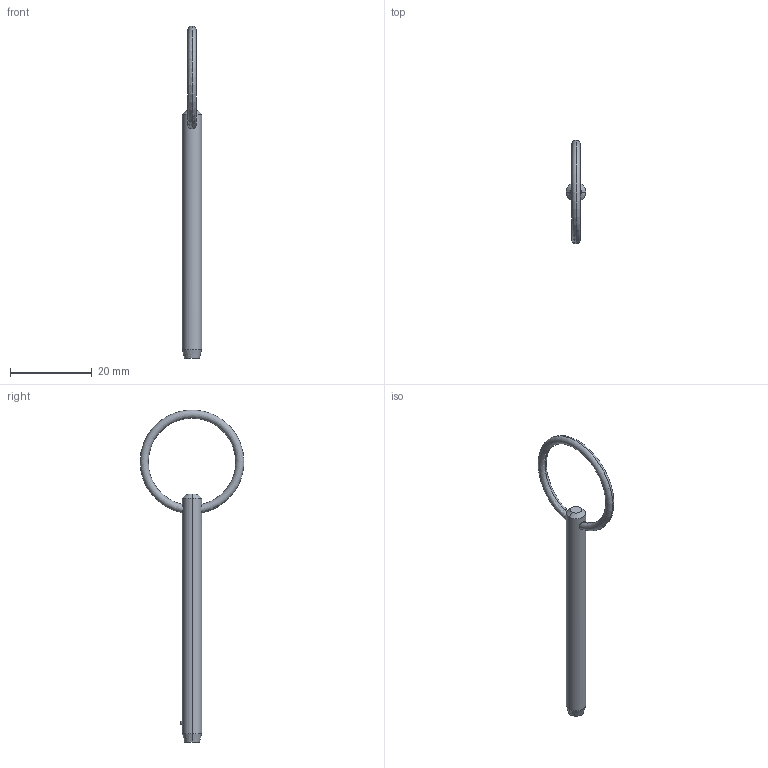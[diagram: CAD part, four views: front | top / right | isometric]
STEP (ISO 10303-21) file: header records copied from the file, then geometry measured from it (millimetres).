
FILE_DESCRIPTION (( 'STEP AP203' ), '1' );
FILE_NAME ('P1250.018-200.step', '2019-07-29T19:33:04', ( '' ), ( '' ), 'SwSTEP 2.0', 'SolidWorks 2017', '' );
FILE_SCHEMA (( 'CONFIG_CONTROL_DESIGN' ));
Length unit declared in the file: millimetre
Products named in the file (1): P1250.018-200
Bounding box: 4.76 x 25.4 x 81.28 mm (x, y, z)
Volume: 1281.3 mm3; surface area: 1349.7 mm2
Topology: 1 solids, 1 shells, 12 faces, 28 edges, 17 vertices
Faces by surface type: cone 4, torus 2, sphere 2, cylinder 2, plane 2
Entity records: 471 total; most frequent: CARTESIAN_POINT 138, DIRECTION 56, ORIENTED_EDGE 48, AXIS2_PLACEMENT_3D 25, EDGE_CURVE 24, VERTEX_POINT 15, EDGE_LOOP 15, FACE_OUTER_BOUND 12
